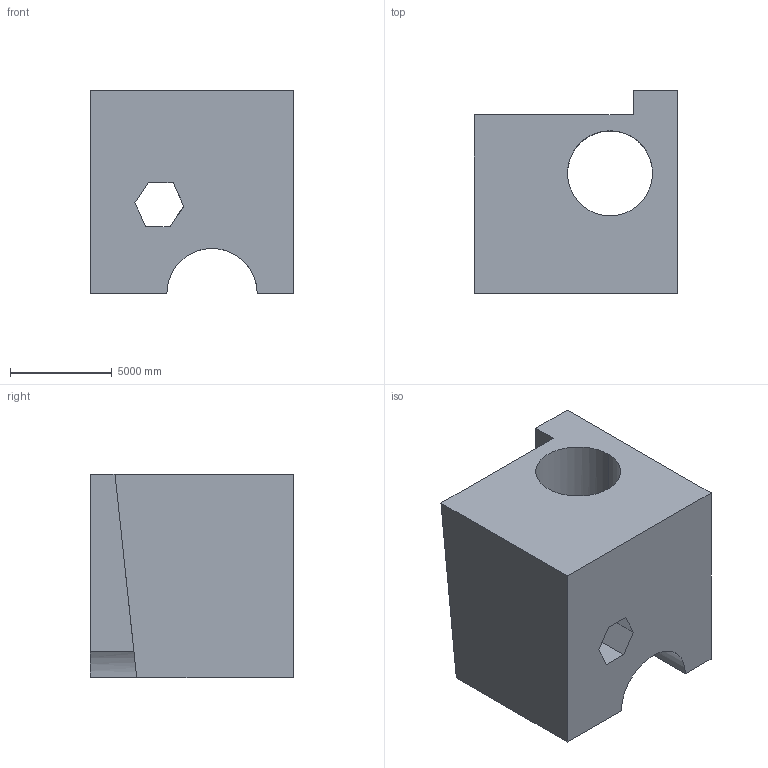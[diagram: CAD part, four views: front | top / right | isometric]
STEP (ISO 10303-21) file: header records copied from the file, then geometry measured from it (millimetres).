
FILE_DESCRIPTION (( 'STEP AP203' ), '1' );
FILE_NAME ('353.STEP', '2022-07-28T14:27:19', ( 'user' ), ( '' ), 'SwSTEP 2.0', 'SolidWorks 2021', '' );
FILE_SCHEMA (( 'CONFIG_CONTROL_DESIGN' ));
Length unit declared in the file: centimetre
Products named in the file (1): 353
Bounding box: 10000 x 10000 x 10000 mm (x, y, z)
Volume: 656580966152.5 mm3; surface area: 710334339.5 mm2
Topology: 1 solids, 1 shells, 21 faces, 66 edges, 44 vertices
Faces by surface type: plane 15, cylinder 6
Entity records: 1087 total; most frequent: CARTESIAN_POINT 437, ORIENTED_EDGE 132, DIRECTION 104, EDGE_CURVE 66, LINE 46, VECTOR 46, VERTEX_POINT 44, AXIS2_PLACEMENT_3D 29
